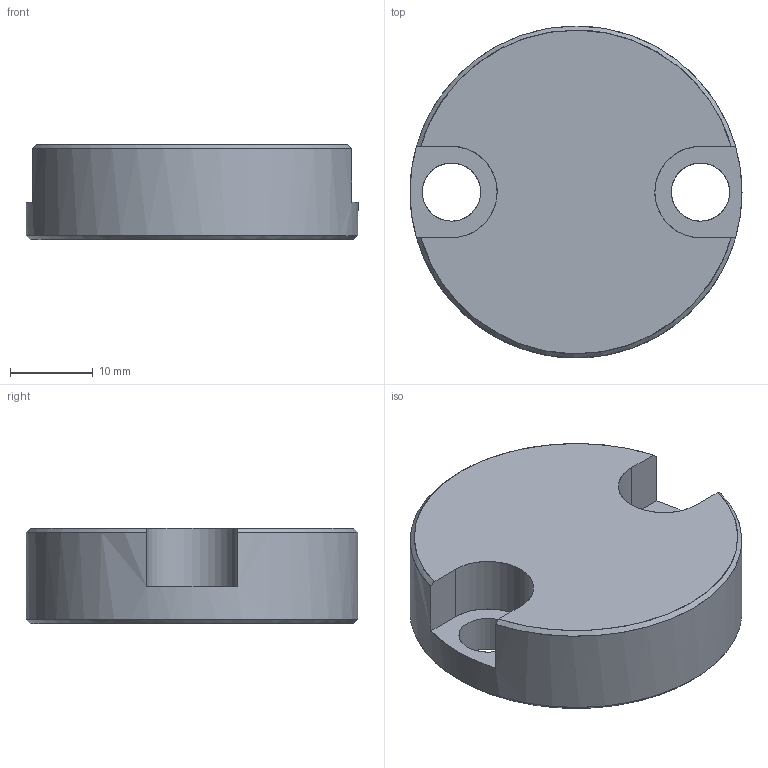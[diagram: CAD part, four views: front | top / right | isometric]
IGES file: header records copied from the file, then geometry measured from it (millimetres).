
Global section: file name: E:\UnigraphicsGraphicData\MISUMI_MOLD-PARTS\NX\3d_cphp40_02853_r00.igs; native system: NX V5.0; preprocessor: UGS NX IGES V5.0; author: MISUMI; date: 20101115.182528; units: millimetre
Bounding box: 40 x 40 x 11.5 mm (x, y, z)
Surface area: 4140.4 mm2 (no closed solid volume)
Topology: 0 solids, 0 shells, 16 faces, 146 edges, 143 vertices
Faces by surface type: bspline 16
